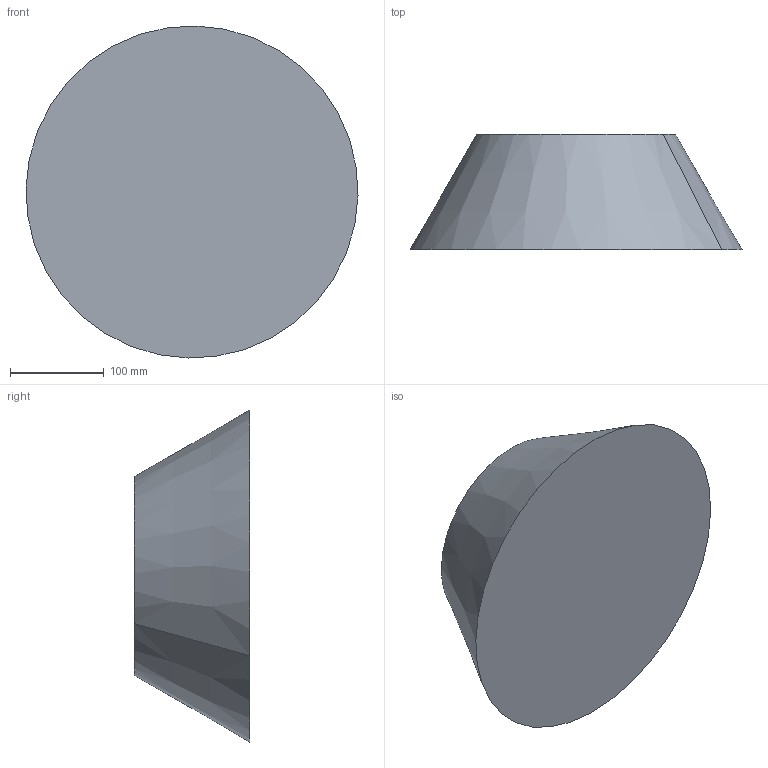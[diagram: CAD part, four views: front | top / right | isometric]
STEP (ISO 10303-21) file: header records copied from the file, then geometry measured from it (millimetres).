
FILE_DESCRIPTION(('CATIA V5 STEP Exchange'),'2;1');
FILE_NAME('C:\_Andres\UNIVERSIDAD\IQS\ASIGNATURAS\DAO\EXF\EXF-16172c\2inicio\Perez_Pellicer_Ej09_v23.stp','2017-03-05T22:13:13+00:00',('none'),('none'),'CATIA Version 5-6 Release 2014 SP1 HF18','CATIA V5 STEP AP203','none');
FILE_SCHEMA(('CONFIG_CONTROL_DESIGN'));
Length unit declared in the file: millimetre
Products named in the file (1): Perez_Pellicer_Ej09_v23
Bounding box: 353.9 x 123 x 353.9 mm (x, y, z)
Volume: 7890683 mm3; surface area: 262178.4 mm2
Topology: 1 solids, 2 shells, 8 faces, 12 edges, 8 vertices
Faces by surface type: plane 4, cone 2, cylinder 2
Entity records: 205 total; most frequent: CARTESIAN_POINT 27, DIRECTION 24, ORIENTED_EDGE 24, AXIS2_PLACEMENT_3D 15, EDGE_CURVE 12, ADVANCED_FACE 8, CIRCLE 8, EDGE_LOOP 8
